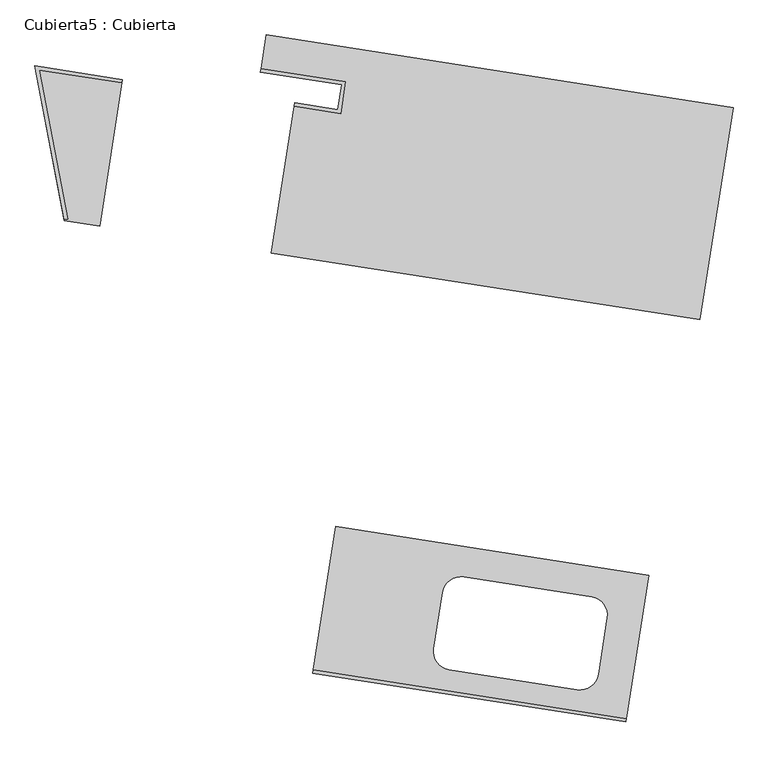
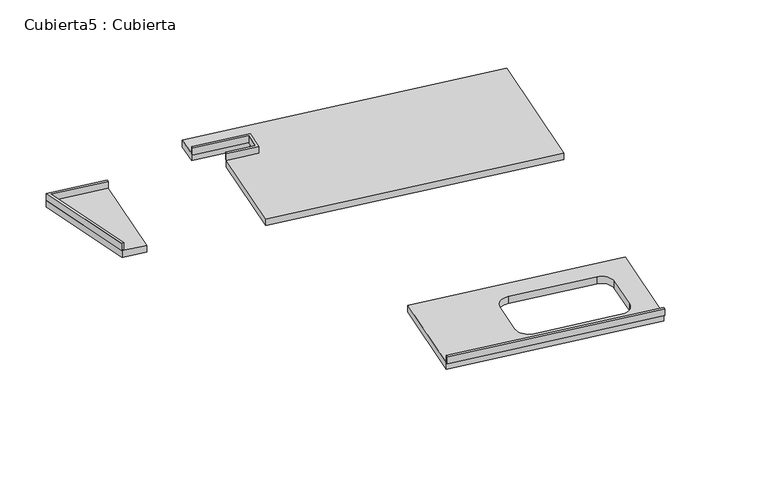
"""IFC4 building model written with IfcOpenShell, lengths in millimetres: furniture geometry, Cubierta5 : Cubierta."""

from ifc_helpers import new_model, si_unit, frame, origin, place, context, project, spatial, polyline, circle_curve, outline, extrude, faceted_brep, source, transform, mapped, element, save
from ifc_brep_helpers import plane_surface, revolved_surface, advanced_brep


def cubierta5_cubierta_6cd0cc0e(model_context):
    return source(origin(), model_context, "Body", "SolidModel", [
        extrude(outline(polyline([(54991.8074582, -173386.0370646), (54989.49731, -173400.8581042), (54627.3560584, -173344.4113246), (54751.3354889, -173997.1606345), (54736.5989444, -173999.9596086), (54608.6507074, -173326.3146094), (54991.8074582, -173386.0370646)])), frame((0.0, 0.0, 900.0), z_axis=(0.0, 0.0, 1.0), x_axis=(1.0, 0.0, 0.0)), (0.0, 0.0, 1.0), 50.0),
        extrude(outline(polyline([(55742.7401321, -173503.0845728), (55745.0502803, -173488.2635332), (55933.1097835, -173517.5762759), (55950.0508702, -173408.8886521), (55595.5211656, -173353.6282806), (55597.8313137, -173338.8072409), (55967.182058, -173396.3777606), (55945.6206749, -173534.7074637), (55742.7401321, -173503.0845728)])), frame((0.0, 0.0, 900.0), z_axis=(0.0, 0.0, 1.0), x_axis=(1.0, 0.0, 0.0)), (0.0, 0.0, 1.0), 50.0),
        faceted_brep([(57663.0522395, -173508.9010027, 900.0), (55620.9327956, -173190.5968448, 900.0), (55597.8313137, -173338.8072409, 900.0), (55967.182058, -173396.3777606, 900.0), (55945.6206749, -173534.7074637, 900.0), (55742.7401321, -173503.0845728, 900.0), (55642.6337106, -174145.3296229, 900.0), (57518.282953, -174437.6861521, 900.0), (57663.0522395, -173508.9010027, 850.0), (57518.282953, -174437.6861521, 850.0), (55642.6337106, -174145.3296229, 850.0), (55742.7401321, -173503.0845728, 850.0), (55945.6206749, -173534.7074637, 850.0), (55967.182058, -173396.3777606, 850.0), (55597.8313137, -173338.8072409, 850.0), (55620.9327956, -173190.5968448, 850.0)], [[[0, 1, 2, 3, 4, 5, 6, 7]], [[8, 9, 10, 11, 12, 13, 14, 15]], [[1, 0, 8, 15]], [[7, 6, 10, 9]], [[0, 7, 9, 8]], [[2, 1, 15, 14]], [[3, 2, 14, 13]], [[4, 3, 13, 12]], [[5, 4, 12, 11]], [[6, 5, 11, 10]]]),
        advanced_brep(
        [(57195.5156008, -176183.7852691, 900.0), (57293.3118741, -175556.3612587, 900.0), (55924.6807902, -175343.0334016, 900.0), (55826.8845168, -175970.4574121, 900.0), (57111.2312167, -175743.0463206, 900.0), (57072.7287469, -175990.0636475, 900.0), (56980.2203327, -176057.6224613, 900.0), (56421.9611738, -175970.6068795, 900.0), (56354.4023601, -175878.0984653, 900.0), (56392.9048299, -175631.0811383, 900.0), (56485.4132441, -175563.5223246, 900.0), (57043.672403, -175650.5379064, 900.0), (57195.5156008, -176183.7852691, 850.0), (55826.8845168, -175970.4574121, 850.0), (55924.6807902, -175343.0334016, 850.0), (57293.3118741, -175556.3612587, 850.0), (57111.2312167, -175743.0463206, 850.0), (57043.672403, -175650.5379064, 850.0), (56485.4132441, -175563.5223246, 850.0), (56392.9048299, -175631.0811383, 850.0), (56354.4023601, -175878.0984653, 850.0), (56421.9611738, -175970.6068795, 850.0), (56980.2203327, -176057.6224613, 850.0), (57072.7287469, -175990.0636475, 850.0), (57195.5156008, -176183.7852691, 950.0), (57193.2054526, -176198.6063087, 950.0), (57193.2054526, -176198.6063087, 900.0), (55826.8845168, -175970.4574121, 950.0), (55824.5743686, -175985.2784517, 950.0), (55824.5743686, -175985.2784517, 900.0)],
        [
            (0, 1),
            (1, 2),
            (2, 3),
            (3, 0),
            (4, 5),
            (5, 6, circle_curve(frame((56992.6951329, -175977.5888473, 900.0), z_axis=(0.0, 0.0, -1.0), x_axis=(-0.9880693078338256, 0.1540098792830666, 0.0)), 81.0)),
            (6, 7),
            (7, 8, circle_curve(frame((56434.435974, -175890.5732655, 900.0), z_axis=(0.0, 0.0, -1.0), x_axis=(-0.9880693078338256, 0.1540098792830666, 0.0)), 81.0)),
            (8, 9),
            (9, 10, circle_curve(frame((56472.9384438, -175643.5559386, 900.0), z_axis=(0.0, 0.0, -1.0), x_axis=(-0.9880693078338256, 0.1540098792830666, 0.0)), 81.0)),
            (10, 11),
            (11, 4, circle_curve(frame((57031.1976028, -175730.5715204, 900.0), z_axis=(0.0, 0.0, -1.0), x_axis=(-0.9880693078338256, 0.1540098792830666, 0.0)), 81.0)),
            (12, 13),
            (13, 14),
            (14, 15),
            (15, 12),
            (16, 17, circle_curve(frame((57031.1976028, -175730.5715204, 850.0), z_axis=(0.0, 0.0, 1.0), x_axis=(-0.9880693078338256, 0.1540098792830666, 0.0)), 81.0)),
            (17, 18),
            (18, 19, circle_curve(frame((56472.9384438, -175643.5559386, 850.0), z_axis=(0.0, 0.0, 1.0), x_axis=(-0.9880693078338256, 0.1540098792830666, 0.0)), 81.0)),
            (19, 20),
            (20, 21, circle_curve(frame((56434.435974, -175890.5732655, 850.0), z_axis=(0.0, 0.0, 1.0), x_axis=(-0.9880693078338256, 0.1540098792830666, 0.0)), 81.0)),
            (21, 22),
            (22, 23, circle_curve(frame((56992.6951329, -175977.5888473, 850.0), z_axis=(0.0, 0.0, 1.0), x_axis=(-0.9880693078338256, 0.1540098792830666, 0.0)), 81.0)),
            (23, 16),
            (24, 25),
            (25, 26),
            (26, 0),
            (0, 24),
            (24, 27),
            (27, 28),
            (28, 25),
            (28, 29),
            (29, 26),
            (29, 3),
            (3, 0),
            (3, 27),
            (0, 12),
            (15, 1),
            (14, 2),
            (13, 3),
            (4, 16),
            (23, 5),
            (22, 6),
            (21, 7),
            (20, 8),
            (19, 9),
            (18, 10),
            (17, 11),
        ],
        [
            plane_surface(frame((56624.3486246, -173346.9987788, 900.0), z_axis=(0.0, 0.0, 1.0), x_axis=(-0.9880693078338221, 0.15400987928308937, 0.0))),
            plane_surface(frame((56624.3486246, -173346.9987788, 850.0), z_axis=(0.0, 0.0, -1.0), x_axis=(0.9880693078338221, -0.15400987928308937, 0.0))),
            plane_surface(frame((57195.5156008, -176183.7852691, 0.0), z_axis=(0.9880693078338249, -0.15400987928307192, 0.0), x_axis=(0.0, 0.0, 1.0))),
            plane_surface(frame((57195.5156008, -176183.7852691, 950.0), z_axis=(0.0, 0.0, 1.0), x_axis=(-0.9880693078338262, 0.154009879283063, 0.0))),
            plane_surface(frame((57193.2054526, -176198.6063087, 950.0), z_axis=(-0.154009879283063, -0.9880693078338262, 0.0), x_axis=(-0.9880693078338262, 0.154009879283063, 0.0))),
            plane_surface(frame((57193.2054526, -176198.6063087, 900.0), z_axis=(0.0, 0.0, -1.0), x_axis=(-0.9880693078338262, 0.154009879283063, 0.0))),
            plane_surface(frame((57195.5156008, -176183.7852691, 900.0), z_axis=(0.154009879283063, 0.9880693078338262, 0.0), x_axis=(-0.9880693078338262, 0.154009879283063, 0.0))),
            plane_surface(frame((55826.8845168, -175970.4574121, 0.0), z_axis=(-0.9880693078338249, 0.15400987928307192, 0.0), x_axis=(0.0, 0.0, 1.0))),
            plane_surface(frame((57195.5156008, -176183.7852691, 900.0), z_axis=(0.988069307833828, -0.15400987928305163, 0.0), x_axis=(0.0, 0.0, -1.0))),
            plane_surface(frame((57293.3118741, -175556.3612587, 900.0), z_axis=(0.1540098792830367, 0.9880693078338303, 0.0), x_axis=(0.0, 0.0, -1.0))),
            plane_surface(frame((55924.6807902, -175343.0334016, 900.0), z_axis=(-0.9880693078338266, 0.15400987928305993, 0.0), x_axis=(0.0, 0.0, -1.0))),
            plane_surface(frame((55826.8845168, -175970.4574121, 900.0), z_axis=(-0.15400987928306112, -0.9880693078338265, 0.0), x_axis=(0.0, 0.0, -1.0))),
            plane_surface(frame((57111.2312167, -175743.0463206, 900.0), z_axis=(-0.9880693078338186, 0.15400987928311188, 0.0), x_axis=(0.0, 0.0, -1.0))),
            revolved_surface(polyline([(56912.66151896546, -175965.11404707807, 850.0), (56912.66151896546, -175965.11404707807, 900.0)]), (56992.6951329, -175977.5888473, 0.0), (0.0, 0.0, -1.0)),
            plane_surface(frame((56980.2203327, -176057.6224613, 900.0), z_axis=(0.15400987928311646, 0.9880693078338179, 0.0), x_axis=(0.0, 0.0, -1.0))),
            revolved_surface(polyline([(56354.40236006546, -175878.09846527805, 850.0), (56354.40236006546, -175878.09846527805, 900.0)]), (56434.435974, -175890.5732655, 0.0), (0.0, 0.0, -1.0)),
            plane_surface(frame((56354.4023601, -175878.0984653, 900.0), z_axis=(0.9880693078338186, -0.15400987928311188, 0.0), x_axis=(0.0, 0.0, -1.0))),
            revolved_surface(polyline([(56392.90482986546, -175631.08113837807, 850.0), (56392.90482986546, -175631.08113837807, 900.0)]), (56472.9384438, -175643.5559386, 0.0), (0.0, 0.0, -1.0)),
            plane_surface(frame((56485.4132441, -175563.5223246, 900.0), z_axis=(-0.15400987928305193, -0.988069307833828, 0.0), x_axis=(0.0, 0.0, -1.0))),
            revolved_surface(polyline([(56951.16398886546, -175718.09672017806, 850.0), (56951.16398886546, -175718.09672017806, 900.0)]), (57031.1976028, -175730.5715204, 0.0), (0.0, 0.0, -1.0)),
        ],
        [
            (0, [[1, 2, 3, 4], [5, 6, 7, 8, 9, 10, 11, 12]]),
            (1, [[13, 14, 15, 16], [17, 18, 19, 20, 21, 22, 23, 24]]),
            (2, [[25, 26, 27, 28]]),
            (3, [[-25, 29, 30, 31]]),
            (4, [[-26, -31, 32, 33]]),
            (5, [[-27, -33, 34, 35]]),
            (6, [[-28, -4, 36, -29]]),
            (7, [[-30, -36, -34, -32]]),
            (8, [[-1, 37, -16, 38]]),
            (9, [[-2, -38, -15, 39]]),
            (10, [[-3, -39, -14, 40]]),
            (11, [[-13, -37, -35, -40]]),
            (12, [[-5, 41, -24, 42]]),
            (13, [[-6, -42, -23, 43]]),
            (14, [[-7, -43, -22, 44]]),
            (15, [[-8, -44, -21, 45]]),
            (16, [[-9, -45, -20, 46]]),
            (17, [[-10, -46, -19, 47]]),
            (18, [[-11, -47, -18, 48]]),
            (19, [[-12, -48, -17, -41]]),
        ],
    ),
        faceted_brep([(54737.4105961, -174004.2329392, 900.0), (54891.7010366, -174028.2821147, 900.0), (54991.8074582, -173386.0370646, 900.0), (54608.6507074, -173326.3146094, 900.0), (54737.4105961, -174004.2329392, 850.0), (54608.6507074, -173326.3146094, 850.0), (54991.8074582, -173386.0370646, 850.0), (54891.7010366, -174028.2821147, 850.0)], [[[0, 1, 2, 3]], [[4, 5, 6, 7]], [[0, 3, 5, 4]], [[1, 0, 4, 7]], [[2, 1, 7, 6]], [[3, 2, 6, 5]]]),
    ])


if __name__ == "__main__":
    model = new_model("IFC4")
    model_context = context("Model", 3, world=origin())
    ifc_project = project(units=[si_unit("LENGTHUNIT", "METRE", prefix="MILLI")], contexts=[model_context])
    site = spatial("IfcSite", under=ifc_project)
    building = spatial("IfcBuilding", under=site)
    placement = place(None, origin())
    cubierta5_cubierta_shape = cubierta5_cubierta_6cd0cc0e(model_context)
    element("IfcFurniture", 1, ObjectType="Cubierta5 : Cubierta", at=placement, inside=building, context=model_context, shape_type="MappedRepresentation", body=[
        mapped(cubierta5_cubierta_shape, transform((0.0, 0.0, 0.0), x_axis=(1.0, 0.0, 0.0), y_axis=(0.0, 1.0, 0.0), z_axis=(0.0, 0.0, 1.0))),
    ])
    save(model, "model.ifc")
